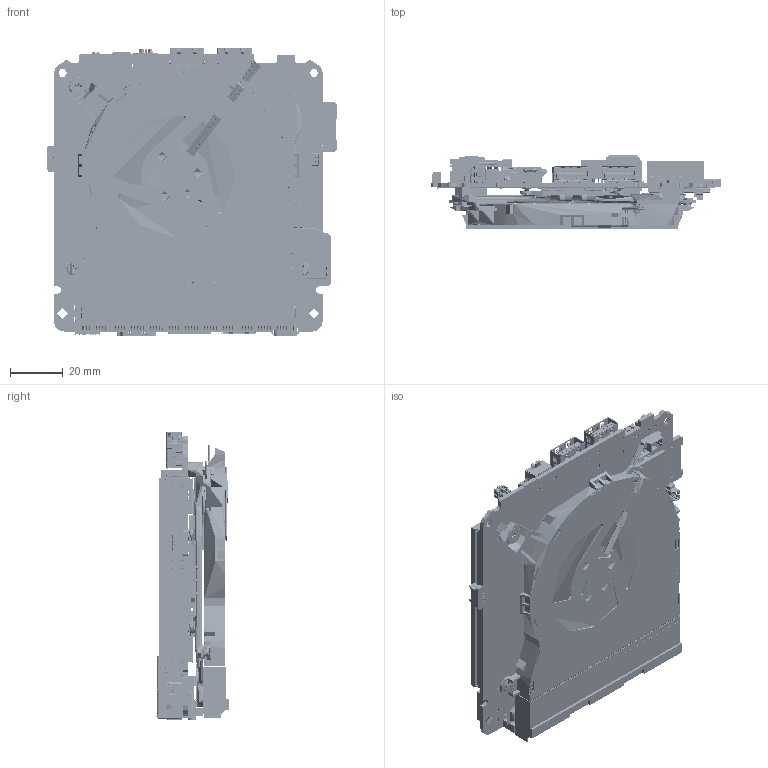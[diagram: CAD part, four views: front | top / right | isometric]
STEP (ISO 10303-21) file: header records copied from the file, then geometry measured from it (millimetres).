
FILE_DESCRIPTION (( 'STEP AP203' ), '1' );
FILE_NAME ('NUC_BE_MB Assembly_19WW22.STEP', '2019-05-30T17:56:25', ( '' ), ( '' ), 'SwSTEP 2.0', 'SolidWorks 2018', '' );
FILE_SCHEMA (( 'CONFIG_CONTROL_DESIGN' ));
Length unit declared in the file: millimetre
Products named in the file (86): 11-371-002573_MOSTWELL; CON_SW_ML3-AG2HWA-Q-R; IR_IRM-V538TTR1_ECEL_2; CON_SW_ML3-AG2HWA-Q-R_12; CON_SW_ML3-AG2HWA-Q-R_11; CON_SW_ML3-AG2HWA-Q-R_10; SCREW_M2_5_FAN_NUC_BE; 23-642-200047_GREAT_GOLD; CON_AUDIO_3_05H-0325_8; IR_IRM-V538TTR1_ECEL_4; CON_USB_TYPEC_AUSB0286_LOTES; CON_AUDIO_3_05H-0325; NUT_M2-5_H4_D5-5_NUC_BE; 11-367-012200_SINGATRON; CON_AUDIO_3_05H-0325_12; CON_AUDIO_3_05H-0325_2; INTEL_M2_WIFI_1216; CON_USB3_1_R_AUSB_LOTES; CON_PH_4V125_1ROW_DIP; MB_NUC_INTEL_BE; CON_AUDIO_3_05H-0325_10; 11-371-002573_MOSTWELL_2; SHIELDING_TBT_NUC_BN; CON_AUDIO_3_05H-0325_4; CON_AUDIO_3_05H-0325_3; CON_AUDIO_3_05H-0325_7; THERMAL_AVC_NUC_BE_3; LED_R_BO_12-22SUBUYOC_EVERLIGHT; CON_WB-5V125_85205-05001_ACS; CON_HEADER_1X3_P2_PINREX; IR_IRM-V538TTR1_ECEL_3; J71462_R02_FINAL_ASM_2; ASM_THERMAL_NUC_BE_ASM; CON_2USB31-R_AUSB_LOTES; CON_HDMI-A_AUS_A04P_MOSTWELL_6; J71462_R02_FINAL_ASM; 10-456-067074_LOTES; ASM_AVC_SINK_AND_FAN_NUC_BE_ASM; IR_IRM-V538TTR1_ECEL; THERMAL_AVC_NUC_BE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
Assembly tree (98 placements, depth 5):
  NUC_BE_MB Assembly_19WW22
    MB_NUC_INTEL_BE
    NUT_HEATSINK_BACK_NUC_BN  x4
    ASM_THERMAL_NUC_BE_ASM
      ASM_AVC_SINK_AND_FAN_NUC_BE_ASM
        AVC_THERMAL_HEATSINK_NUC_BE
        THERMAL_AVC_NUC_BE
          THERMAL_AVC_NUC_BE_5
          THERMAL_AVC_NUC_BE_4
          THERMAL_AVC_NUC_BE_2
          THERMAL_AVC_NUC_BE
          THERMAL_AVC_NUC_BE_3
      SCREW_M2_5_FAN_NUC_BE
    CON_DDR4_S_11-025-260124_LOTES
    CON_DDR4_S_11-025-260122_LOTES
    23-745-200955_GREAT_GOLD
    10-456-067074_LOTES
    23-745-300355_GREAT_GOLD
    23-642-200047_GREAT_GOLD
    SCREW_I_M20X30D50H08_NI
    11-367-012200_SINGATRON
    CON_HDMI-A_AUS_A04P_MOSTWELL
      CON_HDMI-A_AUS_A04P_MOSTWELL_5
      CON_HDMI-A_AUS_A04P_MOSTWELL_4
      CON_HDMI-A_AUS_A04P_MOSTWELL_2
      CON_HDMI-A_AUS_A04P_MOSTWELL_3
      CON_HDMI-A_AUS_A04P_MOSTWELL
    CON_HDMI-A_AUS_A04P_MOSTWELL_6
    CON_AUDIO_3_05H-0325
      CON_AUDIO_3_05H-0325_3
      CON_AUDIO_3_05H-0325_10
      CON_AUDIO_3_05H-0325_2
      CON_AUDIO_3_05H-0325_9
      CON_AUDIO_3_05H-0325_5
      CON_AUDIO_3_05H-0325_6
      CON_AUDIO_3_05H-0325_4
      CON_AUDIO_3_05H-0325_11
      CON_AUDIO_3_05H-0325
      CON_AUDIO_3_05H-0325_7
      CON_AUDIO_3_05H-0325_8
    CON_AUDIO_3_05H-0325_12
    IR_IRM-V538TTR1_ECEL_2
    IR_IRM-V538TTR1_ECEL
      IR_IRM-V538TTR1_ECEL_5
      IR_IRM-V538TTR1_ECEL
      IR_IRM-V538TTR1_ECEL_3
      IR_IRM-V538TTR1_ECEL_4
    CON_WB_SATA-V_SAT054K06_LOTES
    CON_WB-5V125_85205-05001_ACS
    CON_WB-2V125_85205-0200_ACS
    CON_WB-4V125_85205-04001_ACS  x3
    CON_HEADER_1X3_P2_PINREX
    CON_PH_4V125_1ROW_DIP  x3
    CON_SW_ML3-AG2HWA-Q-R
      CON_SW_ML3-AG2HWA-Q-R_10
      CON_SW_ML3-AG2HWA-Q-R_5
      CON_SW_ML3-AG2HWA-Q-R_2
      CON_SW_ML3-AG2HWA-Q-R_7
      CON_SW_ML3-AG2HWA-Q-R_3
      CON_SW_ML3-AG2HWA-Q-R_11
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Bounding box: 109.4 x 27.84 x 109.12 mm (x, y, z)
Topology: 85 solids, 1767 shells, 26541 faces, 67452 edges, 44001 vertices
Faces by surface type: plane 18395, cylinder 7023, bspline 915, cone 195, torus 13
Full cylindrical faces by diameter (mm): 0.25 x70, 0.3 x1, 0.4 x2, 0.47 x1528, 0.5 x4, 0.55 x3, 0.6 x1, 0.65 x2, 0.7 x19, 0.75 x2, 0.8 x16, 0.85 x6, 0.9 x2, 0.95 x7, 1 x5, 1.1 x7, 1.15 x2, 1.2 x11, 1.3 x1, 1.35 x1, 1.4 x7, 1.45 x2, 1.5 x6, 1.6 x9, 1.7 x1, 2 x2, 2.05 x2, 2.5 x8, 2.7 x1, 2.8 x5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
Entity records: 799095 total; most frequent: CARTESIAN_POINT 221994, ORIENTED_EDGE 120278, DIRECTION 105433, EDGE_CURVE 60365, VECTOR 41565, LINE 41565, VERTEX_POINT 40571, AXIS2_PLACEMENT_3D 31934
